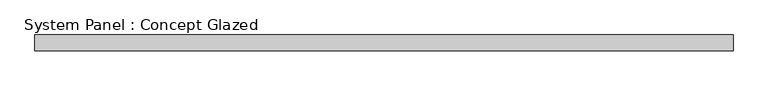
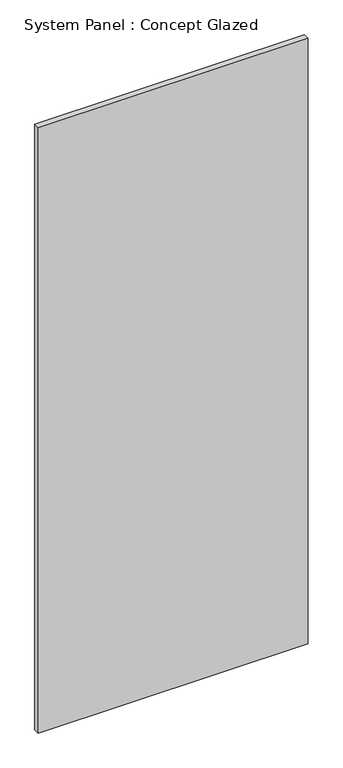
"""IFC4 building model written with IfcOpenShell, lengths in millimetres: plate geometry, System Panel : Concept Glazed."""

import ifcopenshell
import ifcopenshell.guid

model = None  # the IFC model being written
_history = None  # IfcOwnerHistory: only IFC2X3 demands one
_inside = {}  # id of a spatial element -> (the spatial element, [elements in it])
_under = {}  # id of a project, library or spatial element -> (it, [spatial elements below it])
_declared = {}  # id of a project -> (the project, [libraries it declares])
_typed = {}  # id of a type object -> (the type object, [elements of that type])
_made_of = {}  # id of a material, layer set ... -> (it, [elements and type objects made of it])


def new_model(schema):
    """Start an empty IFC model of exactly this schema.

    Asked for "IFC4X3", IfcOpenShell would pick the latest addendum, in which some entities
    have other attributes; the version numbers below select the first issue.
    IFC2X3 requires an IfcOwnerHistory on every rooted entity: one is made here for all.
    """
    global model, _history
    if schema == "IFC4X3":
        model = ifcopenshell.file(schema_version=(4, 3, 0, 0))
    else:
        model = ifcopenshell.file(schema=schema)
    _inside.clear()
    _under.clear()
    _declared.clear()
    _typed.clear()
    _made_of.clear()
    _history = None
    if model.schema == "IFC2X3":
        org = make("IfcOrganization", Name="unknown")
        user = make(
            "IfcPersonAndOrganization",
            ThePerson=make("IfcPerson", FamilyName="unknown"),
            TheOrganization=org,
        )
        app = make(
            "IfcApplication",
            ApplicationDeveloper=org,
            Version="unknown",
            ApplicationFullName="unknown",
            ApplicationIdentifier="unknown",
        )
        _history = make(
            "IfcOwnerHistory",
            OwningUser=user,
            OwningApplication=app,
            ChangeAction="ADDED",
            CreationDate=0,
        )
    return model


def make(cls, **values):
    """One entity of the class cls with the attributes given. An attribute that is None is left unset."""
    return model.create_entity(
        cls, **{name: value for name, value in values.items() if value is not None}
    )


def rooted(cls, **values):
    """An entity with a GlobalId (a new one), such as an element, a storey or a relation."""
    return make(cls, GlobalId=ifcopenshell.guid.new(), OwnerHistory=_history, **values)


def si_unit(unit_type, name, prefix=None):
    """IfcSIUnit, for example si_unit("LENGTHUNIT", "METRE", prefix="MILLI")."""
    return make("IfcSIUnit", UnitType=unit_type, Prefix=prefix, Name=name)


def assignment(units):
    """IfcUnitAssignment: the units of a project."""
    return None if units is None else make("IfcUnitAssignment", Units=units)


def point(xyz):
    """IfcCartesianPoint."""
    return None if xyz is None else make("IfcCartesianPoint", Coordinates=xyz)


def direction(xyz):
    """IfcDirection."""
    return None if xyz is None else make("IfcDirection", DirectionRatios=xyz)


def frame(location, z_axis=None, x_axis=None):
    """IfcAxis2Placement3D, a coordinate frame: its origin and axes. An axis left out is left unset."""
    return make(
        "IfcAxis2Placement3D",
        Location=point(location),
        Axis=direction(z_axis),
        RefDirection=direction(x_axis),
    )


def origin():
    """The frame at (0, 0, 0) with its axes left unset."""
    return frame((0.0, 0.0, 0.0))


def origin_with_axes():
    """The frame at (0, 0, 0) with the z axis (0, 0, 1) and the x axis (1, 0, 0) written out."""
    return frame((0.0, 0.0, 0.0), z_axis=(0.0, 0.0, 1.0), x_axis=(1.0, 0.0, 0.0))


def place(relative_to, where):
    """IfcLocalPlacement: puts the frame where relative to a parent placement (None: the world)."""
    return make(
        "IfcLocalPlacement", PlacementRelTo=relative_to, RelativePlacement=where
    )


def context(
    kind, dimensions, precision=None, world=None, true_north=None, identifier=None
):
    """IfcGeometricRepresentationContext, for example the 3D "Model" context."""
    return make(
        "IfcGeometricRepresentationContext",
        ContextIdentifier=identifier,
        ContextType=kind,
        CoordinateSpaceDimension=dimensions,
        Precision=precision,
        WorldCoordinateSystem=world,
        TrueNorth=true_north,
    )


def project(units=None, contexts=None):
    """IfcProject with its units and contexts."""
    return rooted(
        "IfcProject",
        Name="project",
        RepresentationContexts=contexts,
        UnitsInContext=assignment(units),
    )


def spatial(cls, under=None, at=None, **own):
    """A site, building, storey or space (cls), placed at a placement, below another one or the project."""
    s = rooted(cls, ObjectPlacement=at, **own)
    if under is not None:
        _under.setdefault(under.id(), (under, []))[1].append(s)
    return s


def polyline(points):
    """IfcPolyline through the points."""
    return make("IfcPolyline", Points=[point(p) for p in points])


def outline(outer, holes=None, kind="AREA"):
    """IfcArbitraryClosedProfileDef: a profile drawn as a closed curve; with holes, ...WithVoids."""
    if holes is None:
        return make("IfcArbitraryClosedProfileDef", ProfileType=kind, OuterCurve=outer)
    return make(
        "IfcArbitraryProfileDefWithVoids",
        ProfileType=kind,
        OuterCurve=outer,
        InnerCurves=holes,
    )


def extrude(swept, where, along, depth):
    """IfcExtrudedAreaSolid: the profile swept, set in the frame where, extruded along a direction by depth."""
    return make(
        "IfcExtrudedAreaSolid",
        SweptArea=swept,
        Position=where,
        ExtrudedDirection=direction(along),
        Depth=depth,
    )


def shape(context_of_items, identifier, shape_type, items):
    """IfcShapeRepresentation: the items that make up one representation, for example the "Body"."""
    return make(
        "IfcShapeRepresentation",
        ContextOfItems=context_of_items,
        RepresentationIdentifier=identifier,
        RepresentationType=shape_type,
        Items=items,
    )


def source(mapping_origin, context_of_items, identifier, shape_type, items):
    """IfcRepresentationMap: a shape defined once, which mapped items show again and again."""
    return make(
        "IfcRepresentationMap",
        MappingOrigin=mapping_origin,
        MappedRepresentation=shape(context_of_items, identifier, shape_type, items),
    )


def transform(
    local_origin,
    x_axis=None,
    y_axis=None,
    z_axis=None,
    scale=None,
    scale2=None,
    scale3=None,
    uniform=True,
):
    """IfcCartesianTransformationOperator3D, or its non-uniform kind. x_axis, y_axis, z_axis: its Axis1, 2, 3."""
    if uniform:
        return make(
            "IfcCartesianTransformationOperator3D",
            Axis1=direction(x_axis),
            Axis2=direction(y_axis),
            LocalOrigin=point(local_origin),
            Scale=scale,
            Axis3=direction(z_axis),
        )
    return make(
        "IfcCartesianTransformationOperator3DnonUniform",
        Axis1=direction(x_axis),
        Axis2=direction(y_axis),
        LocalOrigin=point(local_origin),
        Scale=scale,
        Axis3=direction(z_axis),
        Scale2=scale2,
        Scale3=scale3,
    )


def mapped(mapping_source, mapping_target):
    """IfcMappedItem: shows the shape of a source again, moved by a transform."""
    return make(
        "IfcMappedItem", MappingSource=mapping_source, MappingTarget=mapping_target
    )


def made_of(thing, what):
    """Note that an element or type object is made of a material, layer set ...; save() writes the relation."""
    if what is not None:
        _made_of.setdefault(what.id(), (what, []))[1].append(thing)
    return thing


def element(
    cls,
    number,
    at=None,
    inside=None,
    cuts=None,
    type_object=None,
    material=None,
    context=None,
    identifier="Body",
    shape_type=None,
    held_by="IfcProductDefinitionShape",
    body=None,
    shapes=None,
    **own,
):
    """One element of the class cls, such as IfcWall. Its Tag is "e" and its number.

    at: its placement. inside: the storey or other place that contains it. cuts: it is an
    opening in that element (IfcRelVoidsElement). A single representation is given by context,
    identifier, shape_type and body (its items); several are given by shapes. held_by: the class
    of the entity that holds the representations. save() writes the other relations.
    """
    e = rooted(cls, Tag="e%d" % number, ObjectPlacement=at, **own)
    if body is not None:
        shapes = [shape(context, identifier, shape_type, body)]
    if shapes is not None:
        e.Representation = make(held_by, Representations=shapes)
    if inside is not None:
        _inside.setdefault(inside.id(), (inside, []))[1].append(e)
    if cuts is not None:
        rooted(
            "IfcRelVoidsElement", RelatingBuildingElement=cuts, RelatedOpeningElement=e
        )
    if type_object is not None:
        _typed.setdefault(type_object.id(), (type_object, []))[1].append(e)
    return made_of(e, material)


def aggregate(whole, parts):
    """IfcRelAggregates: a whole, such as a stair, and the parts it consists of."""
    return rooted("IfcRelAggregates", RelatingObject=whole, RelatedObjects=parts)


def save(model, path):
    """Write the relations noted so far, then the file.

    IfcRelAggregates (storeys below a building ...), IfcRelContainedInSpatialStructure (elements
    in a storey), IfcRelDefinesByType, IfcRelAssociatesMaterial and IfcRelDeclares: one each for
    every whole, place, type object, material and project.
    """
    for whole, parts in _under.values():
        aggregate(whole, parts)
    for where, things in _inside.values():
        rooted(
            "IfcRelContainedInSpatialStructure",
            RelatedElements=things,
            RelatingStructure=where,
        )
    for kind, things in _typed.values():
        rooted("IfcRelDefinesByType", RelatedObjects=things, RelatingType=kind)
    for what, things in _made_of.values():
        rooted("IfcRelAssociatesMaterial", RelatedObjects=things, RelatingMaterial=what)
    for by, libraries in _declared.values():
        rooted("IfcRelDeclares", RelatingContext=by, RelatedDefinitions=libraries)
    model.write(path)


def system_panel_concept_glazed_5326a568(model_context):
    return source(origin(), model_context, "Body", "SweptSolid", [
        extrude(outline(polyline([(553.5714286, 27.5), (-553.5714286, 27.5), (-553.5714286, 52.5), (553.5714286, 52.5), (553.5714286, 27.5)])), origin_with_axes(), (0.0, 0.0, 1.0), 2625.0),
    ])


if __name__ == "__main__":
    model = new_model("IFC4")
    model_context = context("Model", 3, world=origin())
    ifc_project = project(units=[si_unit("LENGTHUNIT", "METRE", prefix="MILLI")], contexts=[model_context])
    site = spatial("IfcSite", under=ifc_project)
    building = spatial("IfcBuilding", under=site)
    placement = place(None, origin())
    system_panel_concept_glazed_shape = system_panel_concept_glazed_5326a568(model_context)
    element("IfcPlate", 1, ObjectType="System Panel : Concept Glazed", at=placement, inside=building, context=model_context, shape_type="MappedRepresentation", body=[
        mapped(system_panel_concept_glazed_shape, transform((0.0, 0.0, 0.0), x_axis=(1.0, 0.0, 0.0), y_axis=(0.0, 1.0, 0.0), z_axis=(0.0, 0.0, 1.0))),
    ])
    save(model, "model.ifc")
